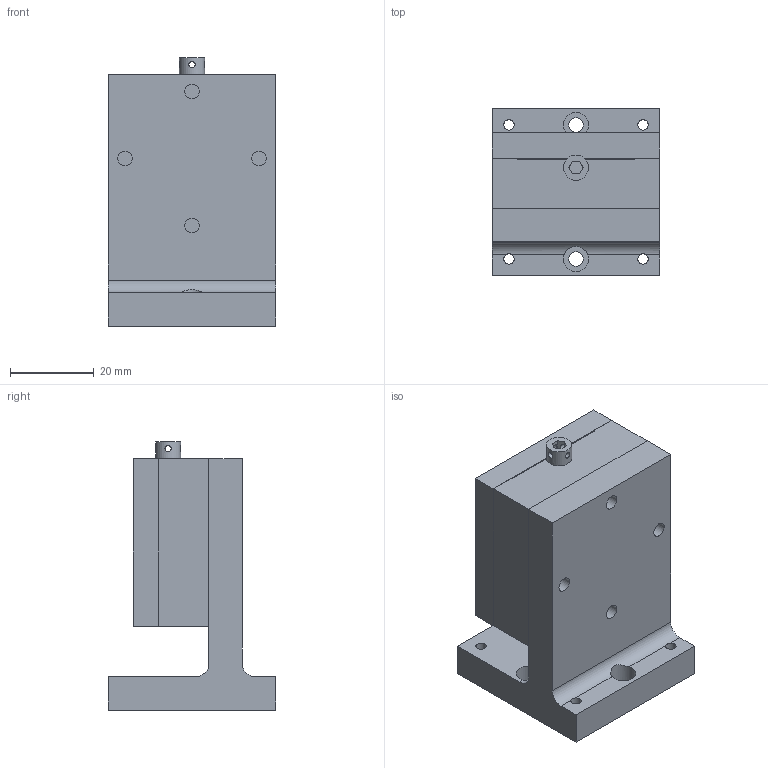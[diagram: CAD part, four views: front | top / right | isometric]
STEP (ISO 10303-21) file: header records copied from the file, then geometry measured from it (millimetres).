
FILE_DESCRIPTION( ( 'STEP AP203' ), '1' );
FILE_NAME( 'C:/3D-Trans/3D_BDBZS-40+080811.step', '2008-08-11T02:39:28', ( ' ' ), ( ' ' ), 'XStep 1.0', ' ', ' ' );
FILE_SCHEMA( ( 'CONFIG_CONTROL_DESIGN' ) );
Length unit declared in the file: millimetre
Products named in the file (4): 1; 2; 3; 4
Bounding box: 40 x 40 x 64 mm (x, y, z)
Volume: 54090.1 mm3; surface area: 22747.9 mm2
Topology: 4 solids, 4 shells, 134 faces, 384 edges, 258 vertices
Faces by surface type: plane 75, cylinder 57, cone 2
Full cylindrical faces by diameter (mm): 1.5 x4, 2.5 x12, 3 x2, 3.3 x6, 3.5 x9, 6 x10
Entity records: 4520 total; most frequent: CARTESIAN_POINT 946, DIRECTION 700, ORIENTED_EDGE 634, EDGE_CURVE 317, AXIS2_PLACEMENT_3D 256, EDGE_LOOP 239, VERTEX_POINT 236, LINE 188
